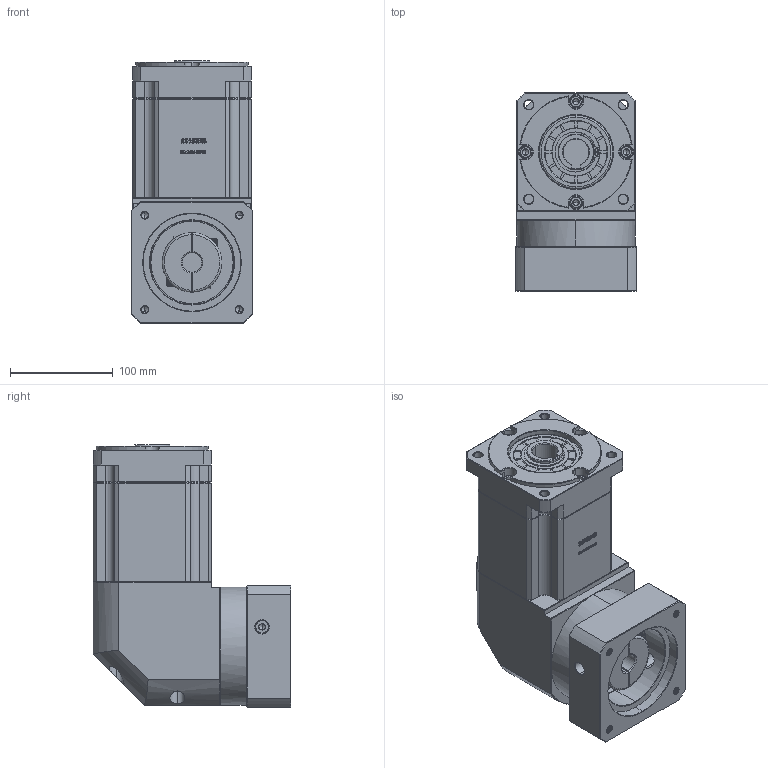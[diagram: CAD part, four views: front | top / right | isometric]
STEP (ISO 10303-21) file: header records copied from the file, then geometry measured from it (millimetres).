
FILE_DESCRIPTION (( 'STEP AP214' ), '1' );
FILE_NAME ('ZBR115A-K25-L3-19-95-130-M8.step', '2023-03-03T05:08:37', ( '' ), ( 'Microsoft' ), 'SwSTEP 2.0', 'SolidWorks 2016', '' );
FILE_SCHEMA (( 'AUTOMOTIVE_DESIGN' ));
Length unit declared in the file: millimetre
Products named in the file (1): ZBR115A-K25-L3-19-95-130-M8
Bounding box: 118 x 192.4 x 255 mm (x, y, z)
Volume: 3576532.9 mm3; surface area: 269011.6 mm2
Topology: 6 solids, 6 shells, 2925 faces, 7775 edges, 4996 vertices
Faces by surface type: plane 1552, bspline 597, cylinder 406, cone 362, torus 8
Entity records: 156386 total; most frequent: CARTESIAN_POINT 56122, ORIENTED_EDGE 15494, DIRECTION 11763, EDGE_CURVE 7747, VECTOR 5253, LINE 5253, VERTEX_POINT 4996, AXIS2_PLACEMENT_3D 3255
